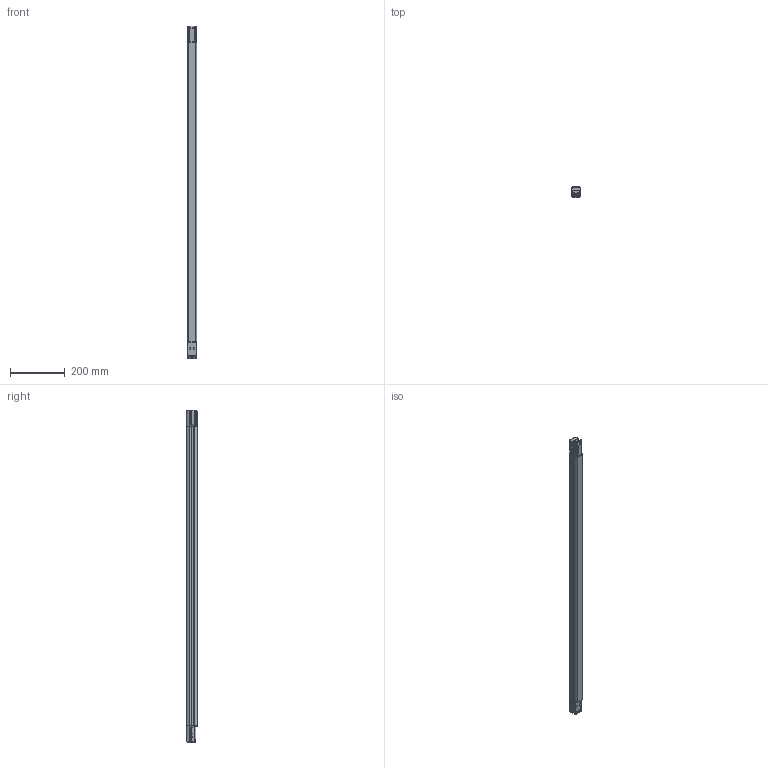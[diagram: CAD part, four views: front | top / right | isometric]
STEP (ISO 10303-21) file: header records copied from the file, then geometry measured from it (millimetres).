
FILE_DESCRIPTION(/* description */ (''),/* implementation_level */ '2;1');
FILE_NAME(/* name */ 'SH4 - 1200 mm DSD Barriera senza Smart Plug.stp',/* time_stamp */ '2022-12-02T18:31:36+01:00',/* author */ (''),/* organization */ (''),/* preprocessor_version */ 'ST-DEVELOPER v16.701',/* originating_system */ 'SIEMENS PLM Software NX 1946',/* authorisation */ '');
FILE_SCHEMA (('AP203_CONFIGURATION_CONTROLLED_3D_DESIGN_OF_MECHANICAL_PARTS_AND_ASSEMBLIES_MIM_LF { 1 0 10303 403 2 1 2}'));
Length unit declared in the file: millimetre
Products named in the file (1): MRos63D4F2E59wzp
Bounding box: 35.08 x 40 x 1209 mm (x, y, z)
Volume: 1414525 mm3; surface area: 282831.3 mm2
Topology: 6 solids, 11 shells, 891 faces, 2428 edges, 1549 vertices
Faces by surface type: plane 363, cylinder 315, bspline 92, cone 55, extrusion 24, sphere 22, torus 20
Full cylindrical faces by diameter (mm): 2.013 x4, 2.2 x4, 3 x4, 4.37 x4, 5 x8
Entity records: 34734 total; most frequent: CARTESIAN_POINT 13104, ORIENTED_EDGE 4576, DIRECTION 3865, EDGE_CURVE 2288, VERTEX_POINT 1515, AXIS2_PLACEMENT_3D 1345, VECTOR 1175, LINE 1151
